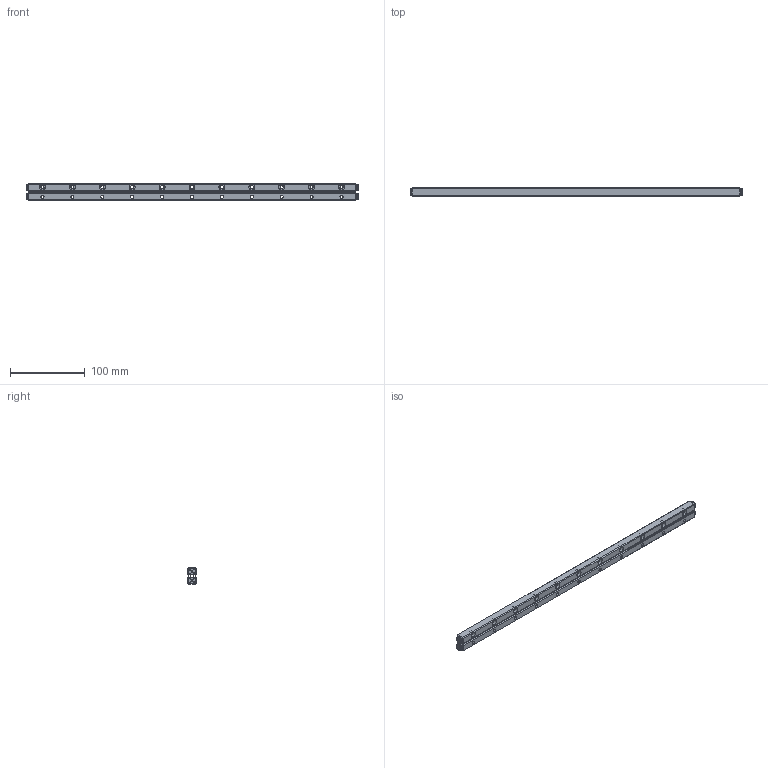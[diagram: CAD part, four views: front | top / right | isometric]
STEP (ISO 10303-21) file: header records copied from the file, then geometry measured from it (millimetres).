
FILE_DESCRIPTION (( 'STEP AP203' ), '1' );
FILE_NAME ('NV4-440（客用）.STEP', '2018-11-05T07:03:26', ( '微软用户' ), ( '微软中国' ), 'SwSTEP 2.0', 'SolidWorks 2017', '' );
FILE_SCHEMA (( 'CONFIG_CONTROL_DESIGN' ));
Length unit declared in the file: millimetre
Products named in the file (1): NV4-440ㄗ諦蚚ㄘ
Bounding box: 444 x 11 x 22 mm (x, y, z)
Volume: 86271.2 mm3; surface area: 43276.5 mm2
Topology: 6 solids, 6 shells, 370 faces, 914 edges, 552 vertices
Faces by surface type: plane 182, cylinder 112, cone 60, torus 16
Entity records: 10893 total; most frequent: CARTESIAN_POINT 2109, DIRECTION 1880, ORIENTED_EDGE 1796, EDGE_CURVE 898, AXIS2_PLACEMENT_3D 707, VERTEX_POINT 552, LINE 466, VECTOR 466
